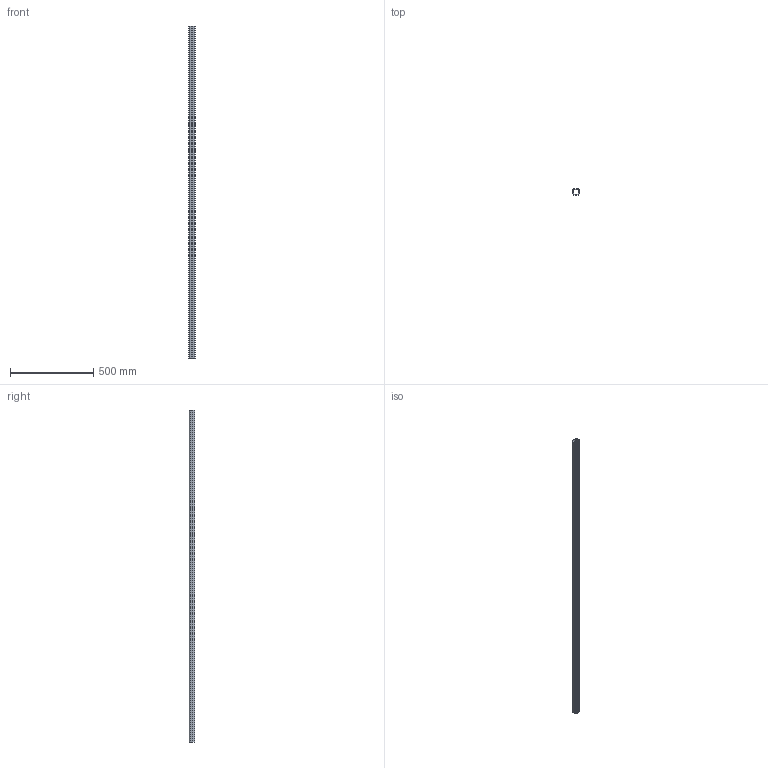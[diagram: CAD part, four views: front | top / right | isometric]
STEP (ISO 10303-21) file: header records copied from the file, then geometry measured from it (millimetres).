
FILE_DESCRIPTION(/* description */ ('Profilrohr Nr.1 - 2m'),/* implementation_level */ '2;1');
FILE_NAME(/* name */ 'Q:\sge-ma\Produktmanagement-STB\STB\Workspace\TraceParts\Laufrohr\011337021.stp',/* time_stamp */ '2018-11-14T15:20:30+01:00',/* author */ ('avschreier'),/* organization */ (''),/* preprocessor_version */ 'ST-DEVELOPER v16.5',/* originating_system */ 'Autodesk Inventor 2017',/* authorisation */ '');
FILE_SCHEMA (('AUTOMOTIVE_DESIGN { 1 0 10303 214 3 1 1 }'));
Length unit declared in the file: millimetre
Products named in the file (1): 011337021
Bounding box: 39.5 x 34.5 x 2000 mm (x, y, z)
Volume: 623606.1 mm3; surface area: 465156.7 mm2
Topology: 1 solids, 1 shells, 40 faces, 108 edges, 72 vertices
Faces by surface type: plane 28, cylinder 12
Entity records: 1286 total; most frequent: CARTESIAN_POINT 221, ORIENTED_EDGE 216, DIRECTION 214, EDGE_CURVE 108, LINE 84, VECTOR 84, VERTEX_POINT 72, AXIS2_PLACEMENT_3D 65
